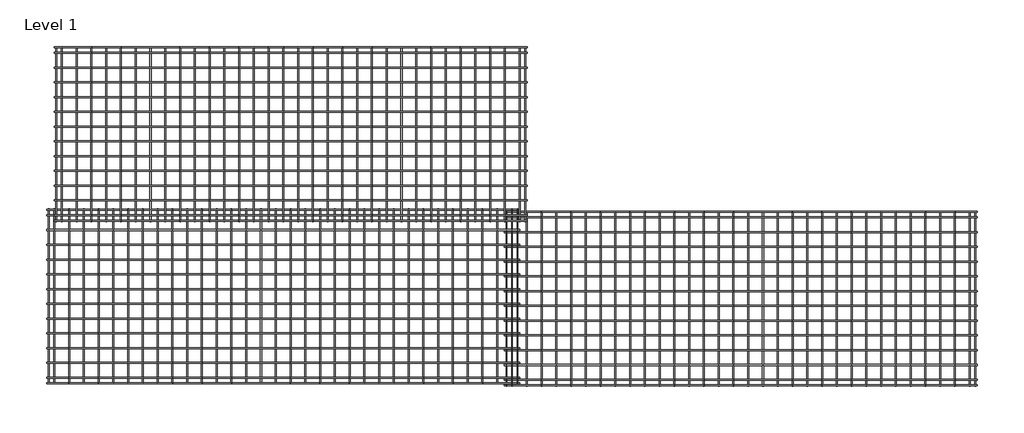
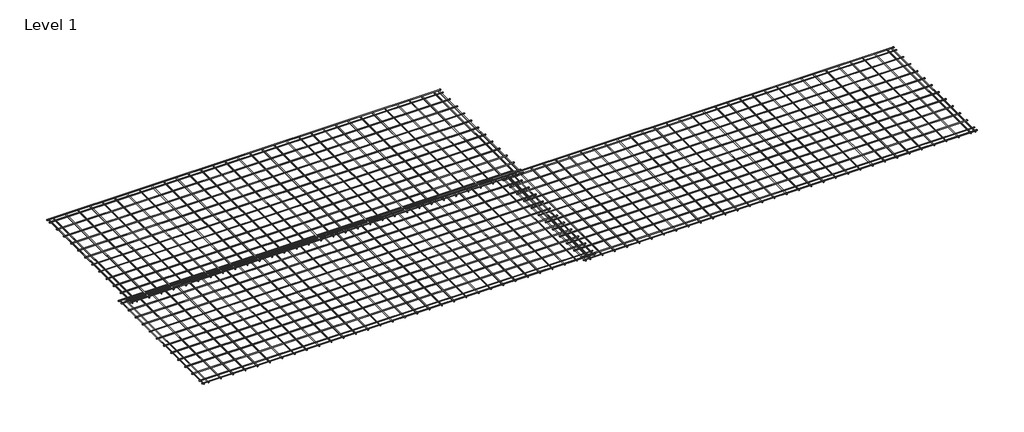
# One storey: 3 proxies.
"""IFC4 building model written with IfcOpenShell, lengths in millimetres."""

from ifc_helpers import new_model, si_unit, origin, place, context, project, spatial, transform, mapped, element, save
from components import united_steel_ml72_double_mesh_united_steel_ml72_double_mesh_5fd074aa

model = new_model("IFC4")

# Units and contexts
model_context = context("Model", 3, world=origin())
ifc_project = project(units=[si_unit("LENGTHUNIT", "METRE", prefix="MILLI")], contexts=[model_context])

# Site, building, storey
site = spatial("IfcSite", under=ifc_project)
building = spatial("IfcBuilding", under=site)
storey = spatial("IfcBuildingStorey", under=building, Name="Level 1", Elevation=0.0)

# Proxies
placement = place(None, origin())
united_steel_ml72_double_mesh_united_steel_ml72_double_mesh_shape = united_steel_ml72_double_mesh_united_steel_ml72_double_mesh_5fd074aa(model_context)
element("IfcBuildingElementProxy", 1, Name="United Steel ML72 Double Mesh : United Steel ML72 Double Mesh", ObjectType="United Steel ML72 Double Mesh : United Steel ML72 Double Mesh", at=placement, inside=storey, context=model_context, shape_type="MappedRepresentation", body=[
    mapped(united_steel_ml72_double_mesh_united_steel_ml72_double_mesh_shape, transform((4431.195054, 2171.3157499, 99.375), x_axis=(1.0, 0.0, 0.0), y_axis=(0.0, 1.0, 0.0), z_axis=(0.0, 0.0, 1.0))),
])
element("IfcBuildingElementProxy", 2, Name="United Steel ML72 Double Mesh : United Steel ML72 Double Mesh", ObjectType="United Steel ML72 Double Mesh : United Steel ML72 Double Mesh", at=placement, inside=storey, context=model_context, shape_type="MappedRepresentation", body=[
    mapped(united_steel_ml72_double_mesh_united_steel_ml72_double_mesh_shape, transform((4534.3856589, 4371.2261808, 126.09375), x_axis=(1.0, 0.0, 0.0), y_axis=(0.0, 1.0, 0.0), z_axis=(0.0, 0.0, 1.0))),
])
element("IfcBuildingElementProxy", 3, Name="United Steel ML72 Double Mesh : United Steel ML72 Double Mesh", ObjectType="United Steel ML72 Double Mesh : United Steel ML72 Double Mesh", at=placement, inside=storey, context=model_context, shape_type="MappedRepresentation", body=[
    mapped(united_steel_ml72_double_mesh_united_steel_ml72_double_mesh_shape, transform((10631.1955059, 2142.5757703, 73.8085938), x_axis=(1.0, 0.0, 0.0), y_axis=(0.0, 1.0, 0.0), z_axis=(0.0, 0.0, 1.0))),
])

save(model, "model.ifc")
